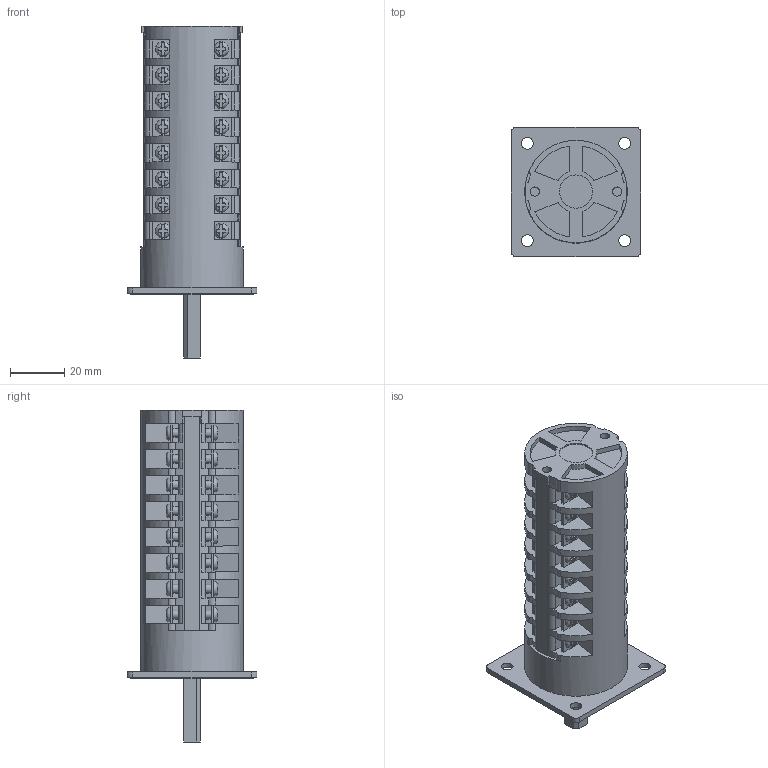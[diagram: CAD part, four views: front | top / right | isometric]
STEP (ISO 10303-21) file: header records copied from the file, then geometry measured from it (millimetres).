
FILE_DESCRIPTION(/* description */ (''),/* implementation_level */ '2;1');
FILE_NAME(/* name */ '4G10-U_standard_8_korpusow.stp',/* time_stamp */ '2021-07-21T07:57:56+02:00',/* author */ (''),/* organization */ (''),/* preprocessor_version */ 'ST-DEVELOPER v18.1',/* originating_system */ 'SIEMENS PLM Software NX 1965',/* authorisation */ '');
FILE_SCHEMA (('AUTOMOTIVE_DESIGN { 1 0 10303 214 3 1 1 1 }'));
Length unit declared in the file: millimetre
Products named in the file (1): 4G10-U_standard_8_korpusow_stp
Bounding box: 48 x 48 x 122.9 mm (x, y, z)
Volume: 94114.9 mm3; surface area: 31894.2 mm2
Topology: 1 solids, 1 shells, 1089 faces, 3002 edges, 2004 vertices
Faces by surface type: plane 894, cylinder 161, bspline 32, torus 2
Full cylindrical faces by diameter (mm): 3.2 x32, 3.4 x3, 4.3 x4, 6.2 x2, 7.2 x4, 12.3 x1, 16.2 x1, 16.8 x1, 38 x1
Entity records: 34651 total; most frequent: CARTESIAN_POINT 7705, ORIENTED_EDGE 5694, DIRECTION 5325, EDGE_CURVE 2847, VERTEX_POINT 1932, LINE 1837, VECTOR 1837, AXIS2_PLACEMENT_3D 1744
